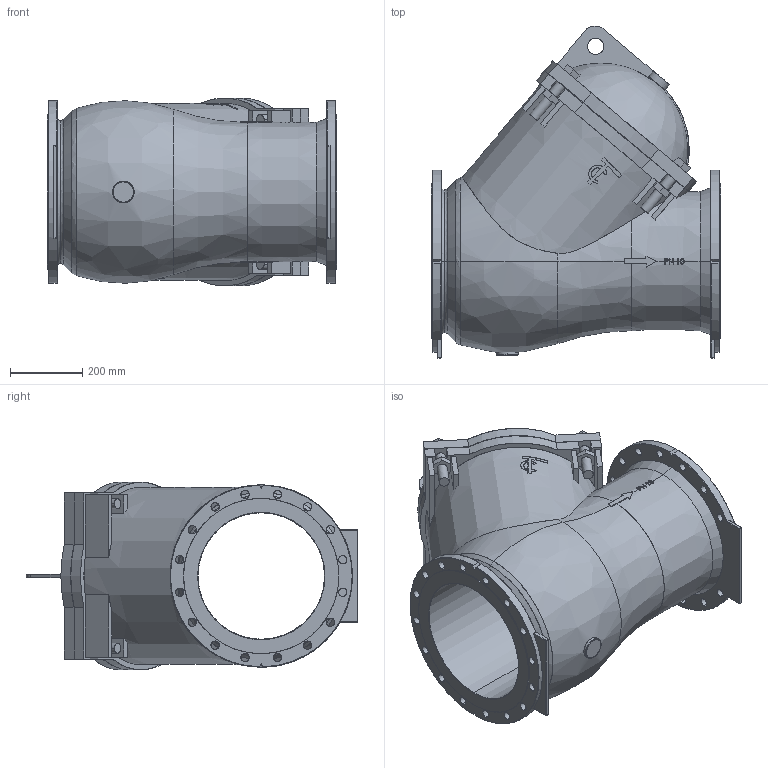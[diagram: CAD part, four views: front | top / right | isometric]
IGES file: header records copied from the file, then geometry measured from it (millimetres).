
Start section: SolidWorks IGES file using analytic representation for surfaces
Global section: file name: D:\part\3D Projects\CBL X240\DN 350\CBL DN350.IGS; native system: SolidWorks 2009; preprocessor: SolidWorks 2009; author: zhixin.zheng; date: 100512.104649; units: millimetre
Bounding box: 800 x 918.54 x 520 mm (x, y, z)
Surface area: 3492553.4 mm2 (no closed solid volume)
Topology: 0 solids, 0 shells, 538 faces, 5830 edges, 5828 vertices
Faces by surface type: bspline 369, revolution 169
